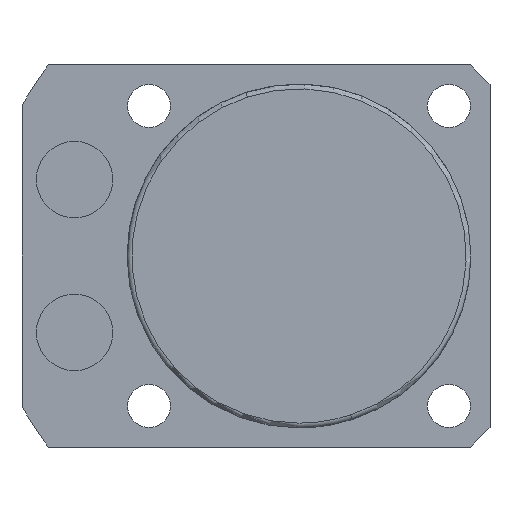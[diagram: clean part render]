
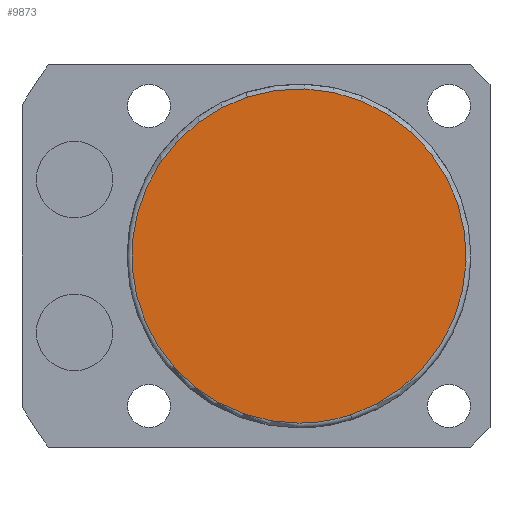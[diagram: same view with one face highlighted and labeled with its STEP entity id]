
A CAD part, front view. The second image highlights one B-rep face of the part: STEP entity #9873.
In plain terms, the highlighted planar face has unit normal (0, -1, 0).
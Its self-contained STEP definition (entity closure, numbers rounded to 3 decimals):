
#9839=CARTESIAN_POINT('',(0.0,-65.5,-17.5));
#9840=VERTEX_POINT('',#9839);
#9841=CARTESIAN_POINT('',(5.408,-65.5,-16.643));
#9842=VERTEX_POINT('',#9841);
#9843=CARTESIAN_POINT('',(0.0,-65.5,0.0));
#9844=DIRECTION('',(0.0,-1.0,0.0));
#9845=DIRECTION('',(0.0,0.0,-1.0));
#9846=AXIS2_PLACEMENT_3D('',#9843,#9844,#9845);
#9847=CIRCLE('',#9846,17.5);
#9848=EDGE_CURVE('no 4662',#9840,#9842,#9847,.T.);
#9849=ORIENTED_EDGE('',*,*,#9848,.T.);
#9850=CARTESIAN_POINT('',(-5.408,-65.5,16.643));
#9851=VERTEX_POINT('',#9850);
#9852=CARTESIAN_POINT('',(0.0,-65.5,0.0));
#9853=DIRECTION('',(0.0,-1.0,0.0));
#9854=DIRECTION('',(0.0,0.0,-1.0));
#9855=AXIS2_PLACEMENT_3D('',#9852,#9853,#9854);
#9856=CIRCLE('',#9855,17.5);
#9857=EDGE_CURVE('no 4668',#9842,#9851,#9856,.T.);
#9858=ORIENTED_EDGE('',*,*,#9857,.T.);
#9859=CARTESIAN_POINT('',(0.0,-65.5,0.0));
#9860=DIRECTION('',(0.0,-1.0,0.0));
#9861=DIRECTION('',(0.0,0.0,-1.0));
#9862=AXIS2_PLACEMENT_3D('',#9859,#9860,#9861);
#9863=CIRCLE('',#9862,17.5);
#9864=EDGE_CURVE('no 4672',#9851,#9840,#9863,.T.);
#9865=ORIENTED_EDGE('',*,*,#9864,.T.);
#9866=EDGE_LOOP('',(#9849,#9858,#9865));
#9867=FACE_OUTER_BOUND('',#9866,.T.);
#9868=CARTESIAN_POINT('',(0.0,-65.5,0.0));
#9869=DIRECTION('',(0.0,-1.0,0.0));
#9870=DIRECTION('',(0.0,0.0,-1.0));
#9871=AXIS2_PLACEMENT_3D('',#9868,#9869,#9870);
#9872=PLANE('',#9871);
#9873=ADVANCED_FACE('no 4653',(#9867),#9872,.T.);
